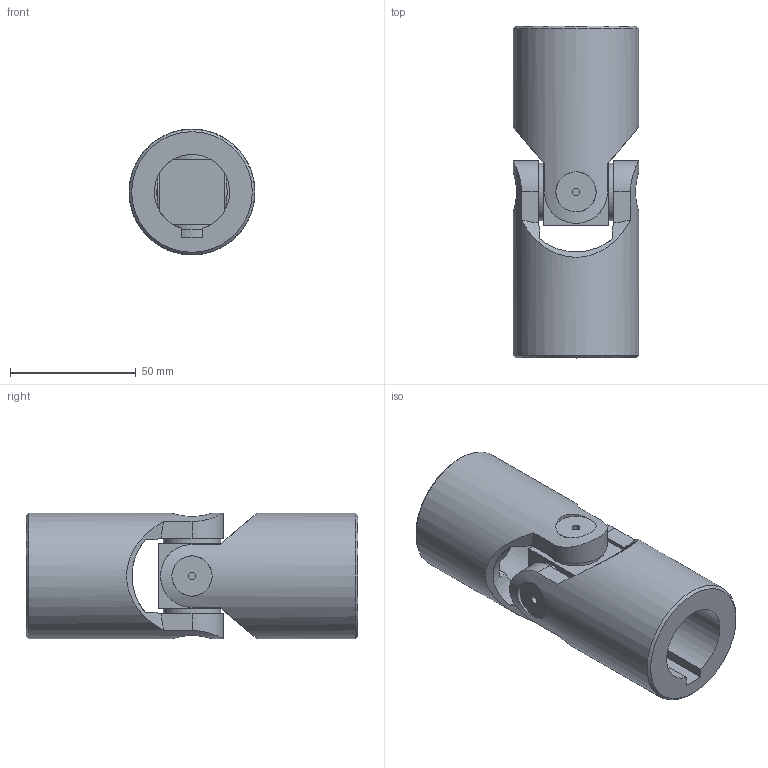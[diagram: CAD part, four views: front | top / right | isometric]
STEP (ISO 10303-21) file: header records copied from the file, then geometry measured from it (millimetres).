
FILE_DESCRIPTION(/* description */ (''),/* implementation_level */ '2;1');
FILE_NAME(/* name */ '\\SRV2016\Societa\Stefano\Disegni 3D\Dis. Clienti\0000Catalogo 3D\01Singoli G-GB\Ø50_6GB-1C_SGBS301C.stp',/* time_stamp */ '2021-11-10T15:15:31+01:00',/* author */ ('acquisti'),/* organization */ (''),/* preprocessor_version */ 'ST-DEVELOPER v15.6',/* originating_system */ 'Autodesk Inventor 2015',/* authorisation */ '');
FILE_SCHEMA (('AUTOMOTIVE_DESIGN { 1 0 10303 214 3 1 1 }'));
Length unit declared in the file: millimetre
Products named in the file (3): 5G SFE; 6GB MOC; Assieme9
Assembly tree (3 placements, depth 2):
  Assieme9
    5G SFE
    6GB MOC  x2
Bounding box: 50 x 132 x 50 mm (x, y, z)
Volume: 158383 mm3; surface area: 40484.9 mm2
Topology: 3 solids, 3 shells, 82 faces, 204 edges, 138 vertices
Faces by surface type: plane 46, cylinder 24, cone 10, torus 2
Full cylindrical faces by diameter (mm): 3 x4, 16 x4, 23 x4, 50 x2
Entity records: 1627 total; most frequent: CARTESIAN_POINT 524, DIRECTION 209, ORIENTED_EDGE 206, EDGE_CURVE 103, AXIS2_PLACEMENT_3D 89, VERTEX_POINT 77, EDGE_LOOP 68, FACE_OUTER_BOUND 48
